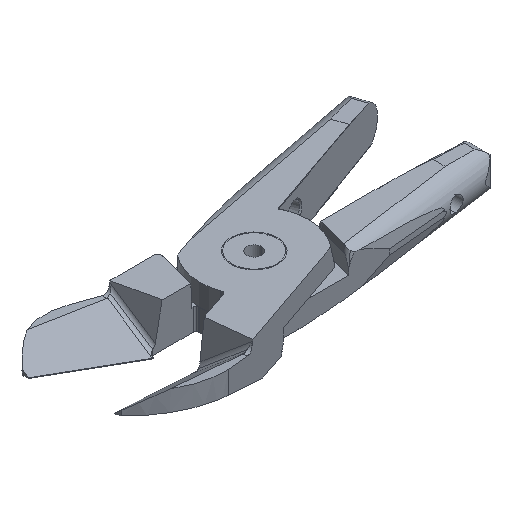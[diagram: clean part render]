
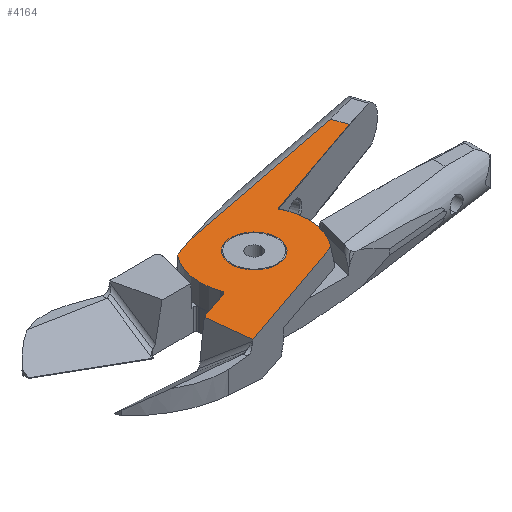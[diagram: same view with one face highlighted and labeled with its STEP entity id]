
A CAD part, isometric view. The second image highlights one B-rep face of the part: STEP entity #4164.
In plain terms, the highlighted planar face has unit normal (0, 0, 1) as drawn and (0, 0, -1) by its records, which use the part's own axes.
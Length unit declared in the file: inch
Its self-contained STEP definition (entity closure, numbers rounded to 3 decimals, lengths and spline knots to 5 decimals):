
#2845=CARTESIAN_POINT('',(0.87205,1.16708,0.0455));
#2846=VERTEX_POINT('',#2845);
#2854=CARTESIAN_POINT('',(0.39196,1.16708,0.0455));
#2855=VERTEX_POINT('',#2854);
#2862=CARTESIAN_POINT('',(0.632,1.16708,0.0455));
#2863=DIRECTION('',(0.0,0.0,-1.0));
#2864=DIRECTION('',(1.0,0.0,0.0));
#2865=AXIS2_PLACEMENT_3D('',#2862,#2863,#2864);
#2866=CIRCLE('',#2865,0.24005);
#2867=EDGE_CURVE('',#2855,#2846,#2866,.T.);
#2980=CARTESIAN_POINT('',(0.03822,1.19829,0.0455));
#2981=VERTEX_POINT('',#2980);
#2990=CARTESIAN_POINT('',(0.047,1.17708,0.0455));
#2991=VERTEX_POINT('',#2990);
#2992=CARTESIAN_POINT('',(0.017,1.17708,0.0455));
#2993=DIRECTION('',(0.0,0.0,-1.));
#2994=DIRECTION('',(0.707,0.707,0.0));
#2995=AXIS2_PLACEMENT_3D('',#2992,#2993,#2994);
#2996=CIRCLE('',#2995,0.03);
#2997=EDGE_CURVE('',#2981,#2991,#2996,.T.);
#3082=CARTESIAN_POINT('',(1.21592,1.16708,0.0455));
#3083=VERTEX_POINT('',#3082);
#3091=CARTESIAN_POINT('',(0.93359,1.66708,0.0455));
#3092=VERTEX_POINT('',#3091);
#3093=CARTESIAN_POINT('',(0.632,1.16708,0.0455));
#3094=DIRECTION('',(0.0,0.0,1.0));
#3095=DIRECTION('',(1.0,0.0,0.0));
#3096=AXIS2_PLACEMENT_3D('',#3093,#3094,#3095);
#3097=CIRCLE('',#3096,0.58391);
#3098=EDGE_CURVE('',#3083,#3092,#3097,.T.);
#3506=CARTESIAN_POINT('',(-0.41937,1.66708,0.0455));
#3507=VERTEX_POINT('',#3506);
#3514=CARTESIAN_POINT('',(-0.31762,1.20708,0.0455));
#3515=VERTEX_POINT('',#3514);
#3516=CARTESIAN_POINT('',(-0.41937,1.66708,0.0455));
#3517=DIRECTION('',(0.216,-0.976,0.));
#3518=VECTOR('',#3517,0.47112);
#3519=LINE('',#3516,#3518);
#3520=EDGE_CURVE('',#3507,#3515,#3519,.T.);
#3695=CARTESIAN_POINT('',(0.57894,0.66708,0.0455));
#3696=VERTEX_POINT('',#3695);
#3706=CARTESIAN_POINT('',(2.44473,0.9293,0.0455));
#3707=VERTEX_POINT('',#3706);
#3708=CARTESIAN_POINT('',(2.44473,0.9293,0.0455));
#3709=DIRECTION('',(-0.99,-0.139,0.0));
#3710=VECTOR('',#3709,1.88412);
#3711=LINE('',#3708,#3710);
#3712=EDGE_CURVE('',#3707,#3696,#3711,.T.);
#3933=CARTESIAN_POINT('',(0.32832,0.66708,0.0455));
#3934=VERTEX_POINT('',#3933);
#3941=CARTESIAN_POINT('',(0.32832,0.66708,0.0455));
#3942=DIRECTION('',(1.0,0.0,0.0));
#3943=VECTOR('',#3942,0.25063);
#3944=LINE('',#3941,#3943);
#3945=EDGE_CURVE('',#3934,#3696,#3944,.T.);
#4083=CARTESIAN_POINT('',(-0.488,1.71708,0.0455));
#4084=DIRECTION('',(0.0,0.0,1.0));
#4085=DIRECTION('',(1.0,0.0,0.0));
#4086=AXIS2_PLACEMENT_3D('',#4083,#4084,#4085);
#4087=PLANE('',#4086);
#4088=ORIENTED_EDGE('',*,*,#3712,.T.);
#4089=ORIENTED_EDGE('',*,*,#3945,.F.);
#4090=CARTESIAN_POINT('',(0.047,1.16708,0.0455));
#4091=VERTEX_POINT('',#4090);
#4092=CARTESIAN_POINT('',(0.632,1.16708,0.0455));
#4093=DIRECTION('',(0.0,0.0,1.0));
#4094=DIRECTION('',(1.0,0.0,0.0));
#4095=AXIS2_PLACEMENT_3D('',#4092,#4093,#4094);
#4096=CIRCLE('',#4095,0.585);
#4097=EDGE_CURVE('',#4091,#3934,#4096,.T.);
#4098=ORIENTED_EDGE('',*,*,#4097,.F.);
#4099=CARTESIAN_POINT('',(0.047,1.17708,0.0455));
#4100=DIRECTION('',(0.0,-1.0,0.0));
#4101=VECTOR('',#4100,0.01);
#4102=LINE('',#4099,#4101);
#4103=EDGE_CURVE('',#2991,#4091,#4102,.T.);
#4104=ORIENTED_EDGE('',*,*,#4103,.F.);
#4105=ORIENTED_EDGE('',*,*,#2997,.F.);
#4106=CARTESIAN_POINT('',(0.017,1.20708,0.0455));
#4107=VERTEX_POINT('',#4106);
#4108=CARTESIAN_POINT('',(0.017,1.17708,0.0455));
#4109=DIRECTION('',(0.0,0.0,-1.));
#4110=DIRECTION('',(0.707,0.707,0.0));
#4111=AXIS2_PLACEMENT_3D('',#4108,#4109,#4110);
#4112=CIRCLE('',#4111,0.03);
#4113=EDGE_CURVE('',#4107,#2981,#4112,.T.);
#4114=ORIENTED_EDGE('',*,*,#4113,.F.);
#4115=CARTESIAN_POINT('',(-0.31762,1.20708,0.0455));
#4116=DIRECTION('',(1.0,0.0,0.0));
#4117=VECTOR('',#4116,0.33462);
#4118=LINE('',#4115,#4117);
#4119=EDGE_CURVE('',#3515,#4107,#4118,.T.);
#4120=ORIENTED_EDGE('',*,*,#4119,.F.);
#4121=ORIENTED_EDGE('',*,*,#3520,.F.);
#4122=CARTESIAN_POINT('',(0.93359,1.66708,0.0455));
#4123=DIRECTION('',(-1.0,0.,0.));
#4124=VECTOR('',#4123,1.35296);
#4125=LINE('',#4122,#4124);
#4126=EDGE_CURVE('',#3092,#3507,#4125,.T.);
#4127=ORIENTED_EDGE('',*,*,#4126,.F.);
#4128=ORIENTED_EDGE('',*,*,#3098,.F.);
#4129=CARTESIAN_POINT('',(1.21031,1.08636,0.0455));
#4130=VERTEX_POINT('',#4129);
#4131=CARTESIAN_POINT('',(0.632,1.16708,0.0455));
#4132=DIRECTION('',(0.0,0.0,1.0));
#4133=DIRECTION('',(1.0,0.0,0.0));
#4134=AXIS2_PLACEMENT_3D('',#4131,#4132,#4133);
#4135=CIRCLE('',#4134,0.58391);
#4136=EDGE_CURVE('',#4130,#3083,#4135,.T.);
#4137=ORIENTED_EDGE('',*,*,#4136,.F.);
#4138=CARTESIAN_POINT('',(2.44473,1.08636,0.0455));
#4139=VERTEX_POINT('',#4138);
#4140=CARTESIAN_POINT('',(2.44473,1.08636,0.0455));
#4141=DIRECTION('',(-1.0,0.0,0.0));
#4142=VECTOR('',#4141,1.23442);
#4143=LINE('',#4140,#4142);
#4144=EDGE_CURVE('',#4139,#4130,#4143,.T.);
#4145=ORIENTED_EDGE('',*,*,#4144,.F.);
#4146=CARTESIAN_POINT('',(2.44473,0.9293,0.0455));
#4147=DIRECTION('',(0.0,1.0,0.0));
#4148=VECTOR('',#4147,0.15707);
#4149=LINE('',#4146,#4148);
#4150=EDGE_CURVE('',#3707,#4139,#4149,.T.);
#4151=ORIENTED_EDGE('',*,*,#4150,.F.);
#4152=EDGE_LOOP('',(#4088,#4089,#4098,#4104,#4105,#4114,#4120,#4121,#4127,#4128,#4137,#4145,#4151));
#4153=FACE_OUTER_BOUND('',#4152,.T.);
#4154=ORIENTED_EDGE('',*,*,#2867,.F.);
#4155=CARTESIAN_POINT('',(0.632,1.16708,0.0455));
#4156=DIRECTION('',(0.0,0.0,-1.0));
#4157=DIRECTION('',(1.0,0.0,0.0));
#4158=AXIS2_PLACEMENT_3D('',#4155,#4156,#4157);
#4159=CIRCLE('',#4158,0.24005);
#4160=EDGE_CURVE('',#2846,#2855,#4159,.T.);
#4161=ORIENTED_EDGE('',*,*,#4160,.F.);
#4162=EDGE_LOOP('',(#4154,#4161));
#4163=FACE_BOUND('',#4162,.T.);
#4164=ADVANCED_FACE('',(#4153,#4163),#4087,.F.);
